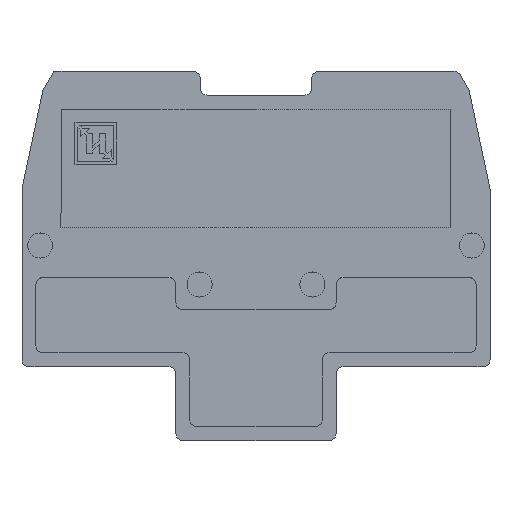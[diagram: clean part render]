
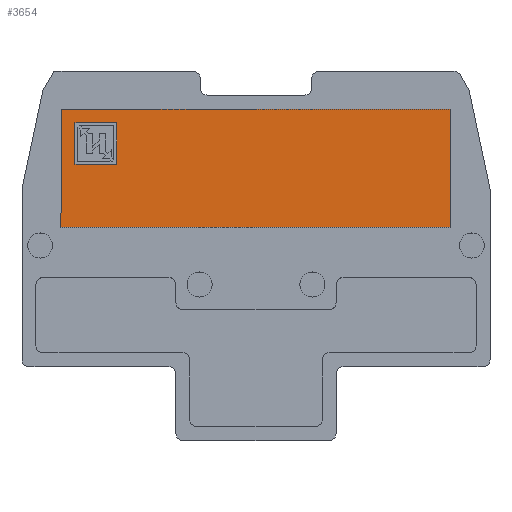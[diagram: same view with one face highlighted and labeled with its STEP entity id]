
A CAD part, top view. The second image highlights one B-rep face of the part: STEP entity #3654.
In plain terms, the highlighted planar face has unit normal (0, 0, 1).
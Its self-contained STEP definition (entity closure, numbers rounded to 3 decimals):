
#35 = DIRECTION ( 'NONE',  ( 1., 0., 0. ) ) ;
#303 = ORIENTED_EDGE ( 'NONE', *, *, #3804, .T. ) ;
#337 = CARTESIAN_POINT ( 'NONE',  ( -9.996, 19.82, 1.8 ) ) ;
#545 = VERTEX_POINT ( 'NONE', #1746 ) ;
#622 = CARTESIAN_POINT ( 'NONE',  ( -14., 15.3, 1.8 ) ) ;
#716 = DIRECTION ( 'NONE',  ( 0., -1., 0. ) ) ;
#744 = CARTESIAN_POINT ( 'NONE',  ( -12.996, 22.82, 1.8 ) ) ;
#1147 = CARTESIAN_POINT ( 'NONE',  ( 0., 0., 1.8 ) ) ;
#1238 = CARTESIAN_POINT ( 'NONE',  ( -14., 23.8, 1.8 ) ) ;
#1243 = CARTESIAN_POINT ( 'NONE',  ( -14., 15.3, 1.8 ) ) ;
#1265 = CARTESIAN_POINT ( 'NONE',  ( -14., 23.8, 1.8 ) ) ;
#1344 = LINE ( 'NONE', #2651, #4325 ) ;
#1376 = ORIENTED_EDGE ( 'NONE', *, *, #5901, .T. ) ;
#1427 = DIRECTION ( 'NONE',  ( -1., 0., 0. ) ) ;
#1594 = CARTESIAN_POINT ( 'NONE',  ( -12.996, 19.82, 1.8 ) ) ;
#1663 = ORIENTED_EDGE ( 'NONE', *, *, #4399, .F. ) ;
#1737 = LINE ( 'NONE', #1238, #3408 ) ;
#1746 = CARTESIAN_POINT ( 'NONE',  ( -9.996, 22.82, 1.8 ) ) ;
#1814 = EDGE_CURVE ( 'NONE', #5679, #5676, #4681, .T. ) ;
#1934 = DIRECTION ( 'NONE',  ( 1., 0., 0. ) ) ;
#1977 = ORIENTED_EDGE ( 'NONE', *, *, #4081, .F. ) ;
#2017 = CARTESIAN_POINT ( 'NONE',  ( -12.996, 22.82, 1.8 ) ) ;
#2242 = VERTEX_POINT ( 'NONE', #337 ) ;
#2356 = DIRECTION ( 'NONE',  ( 0., 0., 1. ) ) ;
#2651 = CARTESIAN_POINT ( 'NONE',  ( 14., 23.8, 1.8 ) ) ;
#2793 = VECTOR ( 'NONE', #4968, 1000. ) ;
#2826 = ORIENTED_EDGE ( 'NONE', *, *, #3406, .T. ) ;
#2907 = VECTOR ( 'NONE', #1934, 1000. ) ;
#2930 = FACE_OUTER_BOUND ( 'NONE', #5891, .T. ) ;
#2940 = ORIENTED_EDGE ( 'NONE', *, *, #1814, .F. ) ;
#3241 = EDGE_LOOP ( 'NONE', ( #1977, #2940, #6982, #1663 ) ) ;
#3271 = ORIENTED_EDGE ( 'NONE', *, *, #7065, .T. ) ;
#3406 = EDGE_CURVE ( 'NONE', #4184, #4641, #1344, .T. ) ;
#3408 = VECTOR ( 'NONE', #6672, 1000. ) ;
#3415 = CARTESIAN_POINT ( 'NONE',  ( -12.996, 19.82, 1.8 ) ) ;
#3473 = CARTESIAN_POINT ( 'NONE',  ( 14., 23.8, 1.8 ) ) ;
#3485 = LINE ( 'NONE', #4847, #6269 ) ;
#3489 = FACE_BOUND ( 'NONE', #3241, .T. ) ;
#3654 = ADVANCED_FACE ( 'NONE', ( #2930, #3489 ), #7085, .T. ) ;
#3779 = VERTEX_POINT ( 'NONE', #1265 ) ;
#3804 = EDGE_CURVE ( 'NONE', #3779, #6886, #1737, .T. ) ;
#3867 = LINE ( 'NONE', #1594, #6829 ) ;
#3966 = EDGE_CURVE ( 'NONE', #545, #5679, #7108, .T. ) ;
#4081 = EDGE_CURVE ( 'NONE', #5676, #2242, #3867, .T. ) ;
#4184 = VERTEX_POINT ( 'NONE', #4646 ) ;
#4325 = VECTOR ( 'NONE', #5547, 1000. ) ;
#4365 = LINE ( 'NONE', #6114, #2793 ) ;
#4399 = EDGE_CURVE ( 'NONE', #2242, #545, #3485, .T. ) ;
#4515 = AXIS2_PLACEMENT_3D ( 'NONE', #1147, #2356, #35 ) ;
#4641 = VERTEX_POINT ( 'NONE', #3473 ) ;
#4646 = CARTESIAN_POINT ( 'NONE',  ( 14., 15.3, 1.8 ) ) ;
#4681 = LINE ( 'NONE', #744, #7629 ) ;
#4847 = CARTESIAN_POINT ( 'NONE',  ( -9.996, 22.82, 1.8 ) ) ;
#4968 = DIRECTION ( 'NONE',  ( -1., 0., 0. ) ) ;
#5044 = LINE ( 'NONE', #622, #2907 ) ;
#5547 = DIRECTION ( 'NONE',  ( 0., 1., 0. ) ) ;
#5676 = VERTEX_POINT ( 'NONE', #3415 ) ;
#5679 = VERTEX_POINT ( 'NONE', #7646 ) ;
#5746 = DIRECTION ( 'NONE',  ( 1., 0., 0. ) ) ;
#5891 = EDGE_LOOP ( 'NONE', ( #303, #1376, #2826, #3271 ) ) ;
#5901 = EDGE_CURVE ( 'NONE', #6886, #4184, #5044, .T. ) ;
#6114 = CARTESIAN_POINT ( 'NONE',  ( -14., 23.8, 1.8 ) ) ;
#6269 = VECTOR ( 'NONE', #7298, 1000. ) ;
#6672 = DIRECTION ( 'NONE',  ( 0., -1., 0. ) ) ;
#6829 = VECTOR ( 'NONE', #5746, 1000. ) ;
#6886 = VERTEX_POINT ( 'NONE', #1243 ) ;
#6982 = ORIENTED_EDGE ( 'NONE', *, *, #3966, .F. ) ;
#7065 = EDGE_CURVE ( 'NONE', #4641, #3779, #4365, .T. ) ;
#7085 = PLANE ( 'NONE',  #4515 ) ;
#7108 = LINE ( 'NONE', #2017, #7477 ) ;
#7298 = DIRECTION ( 'NONE',  ( 0., 1., 0. ) ) ;
#7477 = VECTOR ( 'NONE', #1427, 1000. ) ;
#7629 = VECTOR ( 'NONE', #716, 1000. ) ;
#7646 = CARTESIAN_POINT ( 'NONE',  ( -12.996, 22.82, 1.8 ) ) ;
